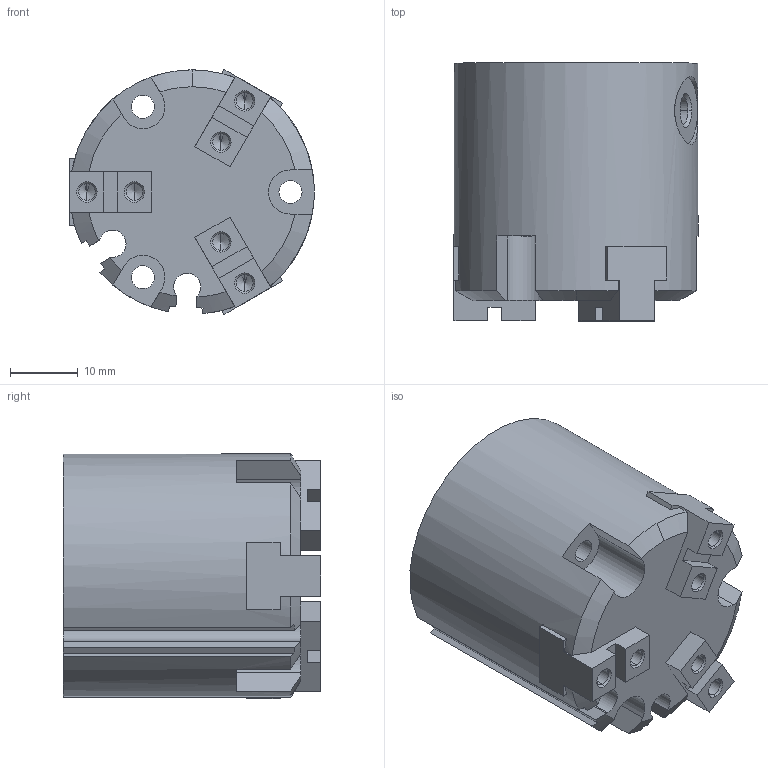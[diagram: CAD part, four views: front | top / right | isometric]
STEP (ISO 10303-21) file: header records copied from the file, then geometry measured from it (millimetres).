
FILE_DESCRIPTION (( 'STEP AP214' ), '1' );
FILE_NAME ('GMHS3-20D.STEP', '2019-11-12T01:24:56', ( '微软用户' ), ( '微软中国' ), 'SwSTEP 2.0', 'SolidWorks 2016', '' );
FILE_SCHEMA (( 'AUTOMOTIVE_DESIGN' ));
Length unit declared in the file: millimetre
Products named in the file (1): GMHS3-20D
Bounding box: 35.97 x 38 x 36.18 mm (x, y, z)
Surface area: 11304.4 mm2 (no closed solid volume)
Topology: 0 solids, 4 shells, 210 faces, 593 edges, 379 vertices
Faces by surface type: plane 102, cone 53, cylinder 49, bspline 6
Entity records: 6804 total; most frequent: CARTESIAN_POINT 1456, DIRECTION 1098, ORIENTED_EDGE 1082, EDGE_CURVE 571, VERTEX_POINT 379, VECTOR 368, LINE 368, AXIS2_PLACEMENT_3D 365
